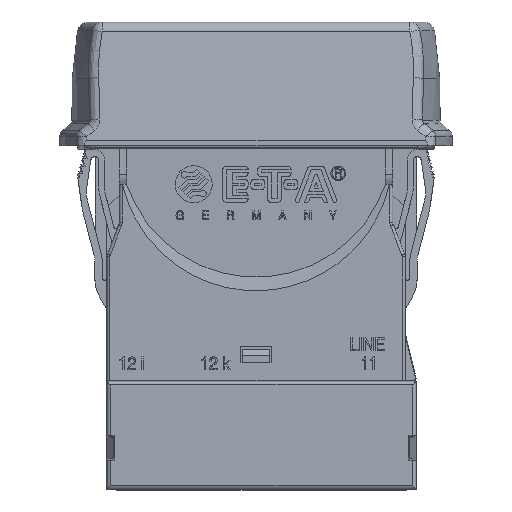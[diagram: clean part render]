
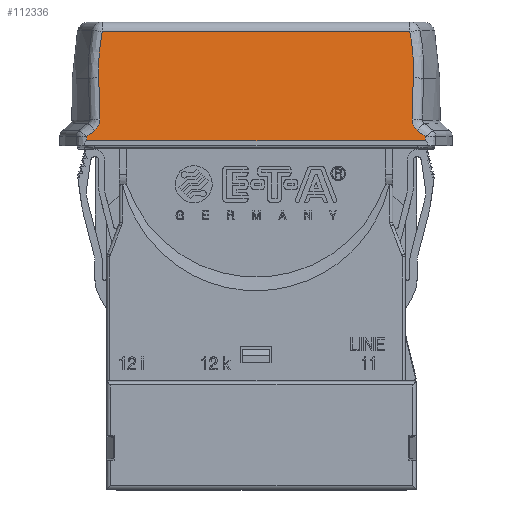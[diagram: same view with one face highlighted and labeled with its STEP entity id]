
A CAD part, top view. The second image highlights one B-rep face of the part: STEP entity #112336.
In plain terms, the highlighted planar face has unit normal (0, 0.113, 0.994).
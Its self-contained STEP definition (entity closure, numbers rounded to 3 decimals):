
#38260=CARTESIAN_POINT('',(-23.234,33.,14.6));
#38294=CARTESIAN_POINT('',(23.234,33.,14.6));
#38708=DIRECTION('',(1.,0.,0.));
#38709=VECTOR('',#38708,42.294);
#38710=CARTESIAN_POINT('',(-21.147,47.97,
12.894));
#38711=LINE('',#38710,#38709);
#38712=CARTESIAN_POINT('',(21.616,41.657,13.614));
#38713=CARTESIAN_POINT('',(21.633,42.08,13.565));
#38714=CARTESIAN_POINT('',(21.649,42.926,13.469));
#38715=CARTESIAN_POINT('',(21.614,44.195,13.324));
#38716=CARTESIAN_POINT('',(21.52,45.461,13.18));
#38717=CARTESIAN_POINT('',(21.367,46.722,13.037));
#38718=CARTESIAN_POINT('',(21.227,47.555,12.942));
#38719=CARTESIAN_POINT('',(21.147,47.97,12.894));
#38721=CARTESIAN_POINT('',(21.479,35.962,14.263));
#38722=CARTESIAN_POINT('',(21.491,36.442,14.208));
#38723=CARTESIAN_POINT('',(21.515,37.392,14.1));
#38724=CARTESIAN_POINT('',(21.548,38.767,13.943));
#38725=CARTESIAN_POINT('',(21.581,40.165,13.784));
#38726=CARTESIAN_POINT('',(21.604,41.153,13.671));
#38727=CARTESIAN_POINT('',(21.616,41.657,13.614));
#38729=CARTESIAN_POINT('',(22.2,34.401,14.44));
#38730=CARTESIAN_POINT('',(22.166,34.429,14.437));
#38731=CARTESIAN_POINT('',(22.099,34.488,14.43));
#38732=CARTESIAN_POINT('',(22.011,34.577,14.42));
#38733=CARTESIAN_POINT('',(21.929,34.669,14.41));
#38734=CARTESIAN_POINT('',(21.854,34.765,14.399));
#38735=CARTESIAN_POINT('',(21.786,34.864,14.388));
#38736=CARTESIAN_POINT('',(21.723,34.968,14.376));
#38737=CARTESIAN_POINT('',(21.667,35.076,14.363));
#38738=CARTESIAN_POINT('',(21.618,35.188,14.351));
#38739=CARTESIAN_POINT('',(21.576,35.301,14.338));
#38740=CARTESIAN_POINT('',(21.542,35.418,14.325));
#38741=CARTESIAN_POINT('',(21.514,35.537,14.311));
#38742=CARTESIAN_POINT('',(21.494,35.662,14.297));
#38743=CARTESIAN_POINT('',(21.48,35.799,14.281));
#38744=CARTESIAN_POINT('',(21.478,35.906,14.269));
#38745=CARTESIAN_POINT('',(21.479,35.962,14.263));
#38747=CARTESIAN_POINT('',(23.256,33.528,14.54));
#38748=CARTESIAN_POINT('',(23.151,33.615,14.53));
#38749=CARTESIAN_POINT('',(22.933,33.795,14.509));
#38750=CARTESIAN_POINT('',(22.585,34.083,14.477));
#38751=CARTESIAN_POINT('',(22.332,34.292,14.453));
#38752=CARTESIAN_POINT('',(22.2,34.401,14.44));
#38754=CARTESIAN_POINT('',(23.256,33.528,14.54));
#38755=CARTESIAN_POINT('',(23.253,33.445,14.549));
#38756=CARTESIAN_POINT('',(23.246,33.275,14.569));
#38757=CARTESIAN_POINT('',(23.238,33.094,14.589));
#38758=CARTESIAN_POINT('',(23.234,33.,14.6));
#38760=DIRECTION('',(-1.,0.,0.));
#38761=VECTOR('',#38760,46.468);
#38762=CARTESIAN_POINT('',(23.234,33.,14.6));
#38763=LINE('',#38762,#38761);
#38764=CARTESIAN_POINT('',(-23.256,33.528,
14.54));
#38765=CARTESIAN_POINT('',(-23.253,33.445,
14.549));
#38766=CARTESIAN_POINT('',(-23.245,33.274,
14.569));
#38767=CARTESIAN_POINT('',(-23.238,33.093,
14.589));
#38768=CARTESIAN_POINT('',(-23.234,33.,14.6));
#38770=CARTESIAN_POINT('',(-22.2,34.401,
14.44));
#38771=CARTESIAN_POINT('',(-22.32,34.302,
14.452));
#38772=CARTESIAN_POINT('',(-22.558,34.105,
14.474));
#38773=CARTESIAN_POINT('',(-22.897,33.825,
14.506));
#38774=CARTESIAN_POINT('',(-23.136,33.627,
14.529));
#38775=CARTESIAN_POINT('',(-23.256,33.528,
14.54));
#38777=CARTESIAN_POINT('',(-21.479,35.962,
14.263));
#38778=CARTESIAN_POINT('',(-21.478,35.916,
14.268));
#38779=CARTESIAN_POINT('',(-21.479,35.826,
14.278));
#38780=CARTESIAN_POINT('',(-21.489,35.7,
14.292));
#38781=CARTESIAN_POINT('',(-21.507,35.577,
14.306));
#38782=CARTESIAN_POINT('',(-21.532,35.458,
14.32));
#38783=CARTESIAN_POINT('',(-21.564,35.34,
14.333));
#38784=CARTESIAN_POINT('',(-21.604,35.225,
14.346));
#38785=CARTESIAN_POINT('',(-21.65,35.113,
14.359));
#38786=CARTESIAN_POINT('',(-21.704,35.004,
14.372));
#38787=CARTESIAN_POINT('',(-21.764,34.899,
14.384));
#38788=CARTESIAN_POINT('',(-21.831,34.797,
14.395));
#38789=CARTESIAN_POINT('',(-21.905,34.699,
14.406));
#38790=CARTESIAN_POINT('',(-21.986,34.603,
14.417));
#38791=CARTESIAN_POINT('',(-22.08,34.505,
14.428));
#38792=CARTESIAN_POINT('',(-22.158,34.436,
14.436));
#38793=CARTESIAN_POINT('',(-22.2,34.401,
14.44));
#38795=CARTESIAN_POINT('',(-21.616,41.657,
13.614));
#38796=CARTESIAN_POINT('',(-21.603,41.092,
13.678));
#38797=CARTESIAN_POINT('',(-21.576,39.917,
13.812));
#38798=CARTESIAN_POINT('',(-21.531,38.061,
14.023));
#38799=CARTESIAN_POINT('',(-21.497,36.681,
14.181));
#38800=CARTESIAN_POINT('',(-21.479,35.962,
14.263));
#38802=CARTESIAN_POINT('',(-21.147,47.97,
12.894));
#38803=CARTESIAN_POINT('',(-21.227,47.554,
12.942));
#38804=CARTESIAN_POINT('',(-21.367,46.721,
13.037));
#38805=CARTESIAN_POINT('',(-21.52,45.461,
13.18));
#38806=CARTESIAN_POINT('',(-21.614,44.196,
13.324));
#38807=CARTESIAN_POINT('',(-21.649,42.927,
13.469));
#38808=CARTESIAN_POINT('',(-21.634,42.08,
13.565));
#38809=CARTESIAN_POINT('',(-21.616,41.657,
13.614));
#48935=VERTEX_POINT('',#38260);
#48937=VERTEX_POINT('',#38764);
#48939=VERTEX_POINT('',#38770);
#48940=VERTEX_POINT('',#38777);
#48942=VERTEX_POINT('',#38795);
#48947=VERTEX_POINT('',#38747);
#48948=VERTEX_POINT('',#38752);
#48950=VERTEX_POINT('',#38745);
#48952=VERTEX_POINT('',#38727);
#48953=VERTEX_POINT('',#38294);
#48979=CARTESIAN_POINT('',(21.147,47.97,12.894));
#48980=VERTEX_POINT('',#48979);
#48985=CARTESIAN_POINT('',(-21.147,47.97,
12.894));
#48986=VERTEX_POINT('',#48985);
#112309=CARTESIAN_POINT('',(-25.384,33.,14.6));
#112310=DIRECTION('',(0.,0.113,0.994));
#112311=DIRECTION('',(1.,0.,0.));
#112312=AXIS2_PLACEMENT_3D('',#112309,#112310,#112311);
#112313=PLANE('',#112312);
#112315=ORIENTED_EDGE('',*,*,#112314,.T.);
#112317=ORIENTED_EDGE('',*,*,#112316,.F.);
#112319=ORIENTED_EDGE('',*,*,#112318,.F.);
#112321=ORIENTED_EDGE('',*,*,#112320,.F.);
#112322=ORIENTED_EDGE('',*,*,#112299,.F.);
#112323=ORIENTED_EDGE('',*,*,#111480,.T.);
#112324=ORIENTED_EDGE('',*,*,#111496,.T.);
#112325=ORIENTED_EDGE('',*,*,#111544,.F.);
#112327=ORIENTED_EDGE('',*,*,#112326,.F.);
#112329=ORIENTED_EDGE('',*,*,#112328,.F.);
#112331=ORIENTED_EDGE('',*,*,#112330,.F.);
#112333=ORIENTED_EDGE('',*,*,#112332,.F.);
#112334=EDGE_LOOP('',(#112315,#112317,#112319,#112321,#112322,#112323,#112324,
#112325,#112327,#112329,#112331,#112333));
#112335=FACE_OUTER_BOUND('',#112334,.F.);
#38720=B_SPLINE_CURVE_WITH_KNOTS('',3,(#38712,#38713,#38714,#38715,#38716,
#38717,#38718,#38719),.UNSPECIFIED.,.F.,.F.,(4,1,1,1,1,4),(0.,0.2,0.4,
0.6,0.8,1.),.UNSPECIFIED.);
#38728=B_SPLINE_CURVE_WITH_KNOTS('',3,(#38721,#38722,#38723,#38724,#38725,
#38726,#38727),.UNSPECIFIED.,.F.,.F.,(4,1,1,1,4),(0.,0.25,0.5,0.75,
1.),.UNSPECIFIED.);
#38746=B_SPLINE_CURVE_WITH_KNOTS('',3,(#38729,#38730,#38731,#38732,#38733,
#38734,#38735,#38736,#38737,#38738,#38739,#38740,#38741,#38742,#38743,#38744,
#38745),.UNSPECIFIED.,.F.,.F.,(4,1,1,1,1,1,1,1,1,1,1,1,1,1,4),(0.,
0.071,0.143,0.214,0.286,
0.357,0.429,0.5,0.571,0.643,
0.714,0.786,0.857,0.929,1.),
.UNSPECIFIED.);
#38753=B_SPLINE_CURVE_WITH_KNOTS('',3,(#38747,#38748,#38749,#38750,#38751,
#38752),.UNSPECIFIED.,.F.,.F.,(4,1,1,4),(0.,0.333,
0.667,1.),.UNSPECIFIED.);
#38759=B_SPLINE_CURVE_WITH_KNOTS('',3,(#38754,#38755,#38756,#38757,#38758),
.UNSPECIFIED.,.F.,.F.,(4,1,4),(0.,0.5,1.),.UNSPECIFIED.);
#38769=B_SPLINE_CURVE_WITH_KNOTS('',3,(#38764,#38765,#38766,#38767,#38768),
.UNSPECIFIED.,.F.,.F.,(4,1,4),(0.,0.5,1.),.UNSPECIFIED.);
#38776=B_SPLINE_CURVE_WITH_KNOTS('',3,(#38770,#38771,#38772,#38773,#38774,
#38775),.UNSPECIFIED.,.F.,.F.,(4,1,1,4),(0.,0.333,
0.667,1.),.UNSPECIFIED.);
#38794=B_SPLINE_CURVE_WITH_KNOTS('',3,(#38777,#38778,#38779,#38780,#38781,
#38782,#38783,#38784,#38785,#38786,#38787,#38788,#38789,#38790,#38791,#38792,
#38793),.UNSPECIFIED.,.F.,.F.,(4,1,1,1,1,1,1,1,1,1,1,1,1,1,4),(0.,
0.071,0.143,0.214,0.286,
0.357,0.429,0.5,0.571,0.643,
0.714,0.786,0.857,0.929,1.),
.UNSPECIFIED.);
#38801=B_SPLINE_CURVE_WITH_KNOTS('',3,(#38795,#38796,#38797,#38798,#38799,
#38800),.UNSPECIFIED.,.F.,.F.,(4,1,1,4),(0.,0.333,
0.667,1.),.UNSPECIFIED.);
#38810=B_SPLINE_CURVE_WITH_KNOTS('',3,(#38802,#38803,#38804,#38805,#38806,
#38807,#38808,#38809),.UNSPECIFIED.,.F.,.F.,(4,1,1,1,1,4),(0.,0.2,0.4,
0.6,0.8,1.),.UNSPECIFIED.);
#111480=EDGE_CURVE('',#48947,#48953,#38759,.T.);
#111496=EDGE_CURVE('',#48953,#48935,#38763,.T.);
#111544=EDGE_CURVE('',#48937,#48935,#38769,.T.);
#112299=EDGE_CURVE('',#48947,#48948,#38753,.T.);
#112314=EDGE_CURVE('',#48986,#48980,#38711,.T.);
#112316=EDGE_CURVE('',#48952,#48980,#38720,.T.);
#112318=EDGE_CURVE('',#48950,#48952,#38728,.T.);
#112320=EDGE_CURVE('',#48948,#48950,#38746,.T.);
#112326=EDGE_CURVE('',#48939,#48937,#38776,.T.);
#112328=EDGE_CURVE('',#48940,#48939,#38794,.T.);
#112330=EDGE_CURVE('',#48942,#48940,#38801,.T.);
#112332=EDGE_CURVE('',#48986,#48942,#38810,.T.);
#112336=ADVANCED_FACE('',(#112335),#112313,.T.);
